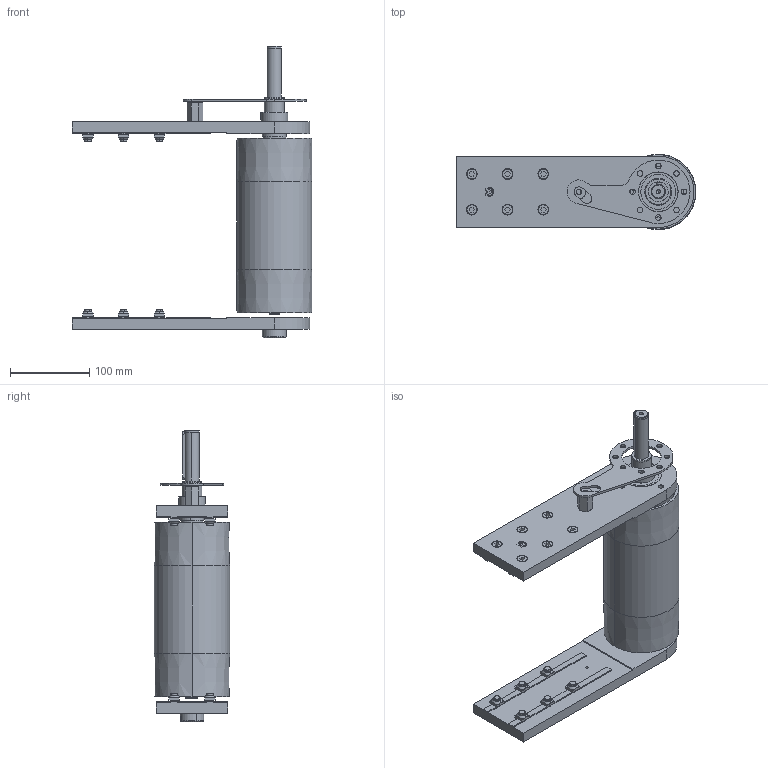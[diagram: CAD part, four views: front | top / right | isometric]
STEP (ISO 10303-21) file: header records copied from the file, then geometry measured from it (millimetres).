
FILE_DESCRIPTION (( 'STEP AP203' ), '1' );
FILE_NAME ('084.095.KD.44.200.STEP', '2019-07-30T07:02:56', ( '' ), ( '' ), 'SwSTEP 2.0', 'SolidWorks 2018', '' );
FILE_SCHEMA (( 'CONFIG_CONTROL_DESIGN' ));
Length unit declared in the file: millimetre
Products named in the file (13): 084.816.101_084.816.107<A macchina>; 084.302.000 DADI ALUSIC 13x13_084.302.004; 084.808.003_084.808.003; 084.095.KD.44.200; 084.812.001; CHIAVETTE_A 6x6x60 UNI 6604-69; 084.807.005; 084.301.000 VITI ALUSIC_084.301.003; 084.808.002_084.808.002; 084.802.027; 084.802.034_084.802.034; circlip for shafts normal_din_PreviewCfg; 084.802.019_084.802.019
Assembly tree (35 placements, depth 2):
  084.095.KD.44.200
    084.802.027
    084.807.005
    084.812.001
    084.802.034_084.802.034
    084.301.000 VITI ALUSIC_084.301.003  x12
    084.302.000 DADI ALUSIC 13x13_084.302.004  x12
    084.816.101_084.816.107<A macchina>
    084.808.003_084.808.003
    084.808.002_084.808.002
    084.802.019_084.802.019
    circlip for shafts normal_din_PreviewCfg  x2
    CHIAVETTE_A 6x6x60 UNI 6604-69
Bounding box: 302.5 x 95 x 367.5 mm (x, y, z)
Volume: 1244221.8 mm3; surface area: 431495.2 mm2
Topology: 40 solids, 41 shells, 920 faces, 2318 edges, 1506 vertices
Faces by surface type: plane 422, cylinder 315, torus 68, cone 58, bspline 48, sphere 9
Entity records: 19933 total; most frequent: CARTESIAN_POINT 4089, DIRECTION 2968, ORIENTED_EDGE 2844, EDGE_CURVE 1422, AXIS2_PLACEMENT_3D 1158, VERTEX_POINT 927, EDGE_LOOP 659, VECTOR 652
